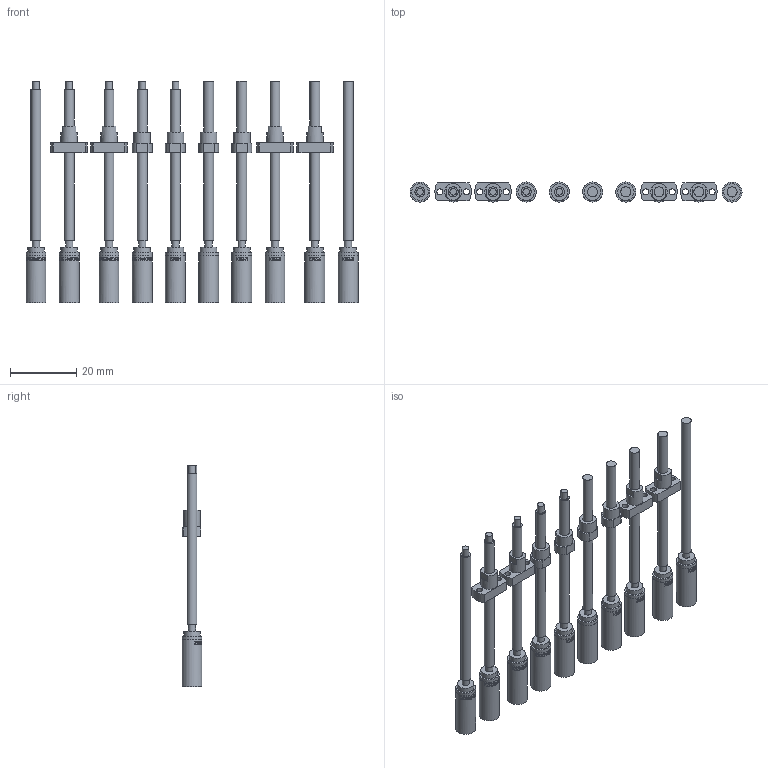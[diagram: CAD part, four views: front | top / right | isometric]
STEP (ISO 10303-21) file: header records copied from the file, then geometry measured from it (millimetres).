
FILE_DESCRIPTION(/* description */ (''),/* implementation_level */ '2;1');
FILE_NAME(/* name */ '06L-3stage_SL_standard_KWNx_KWS1_.stp',/* time_stamp */ '2023-05-12T06:36:33+02:00',/* author */ ('DR. FRITZ FAULHABER GmbH & Co. KG'),/* organization */ ('DR. FRITZ FAULHABER GmbH & Co. KG'),/* preprocessor_version */ 'ST-DEVELOPER v16.7',/* originating_system */ 'SIEMENS PLM Software NX 1919',/* authorisation */ '');
FILE_SCHEMA (('AUTOMOTIVE_DESIGN { 1 0 10303 214 3 1 1 1 }'));
Length unit declared in the file: millimetre
Products named in the file (1): H99999996-C-Linear Actuato
Bounding box: 100 x 6 x 66.7 mm (x, y, z)
Volume: 8686.2 mm3; surface area: 10116.1 mm2
Topology: 10 solids, 10 shells, 970 faces, 2327 edges, 1552 vertices
Faces by surface type: plane 494, bspline 245, cylinder 211, cone 20
Full cylindrical faces by diameter (mm): 1.8 x8, 1.95 x10, 2 x5, 2.2 x10, 2.35 x10, 2.8 x10, 3 x18, 3.959 x10, 5 x28, 5.8 x10, 6 x20
Entity records: 41101 total; most frequent: CARTESIAN_POINT 17466, ORIENTED_EDGE 4244, DIRECTION 2899, EDGE_CURVE 2122, VERTEX_POINT 1508, EDGE_LOOP 1322, AXIS2_PLACEMENT_3D 1249, B_SPLINE_CURVE_WITH_KNOTS 1198
